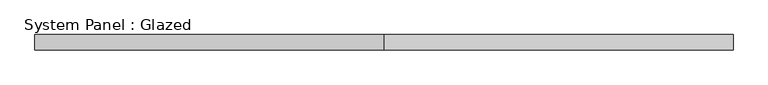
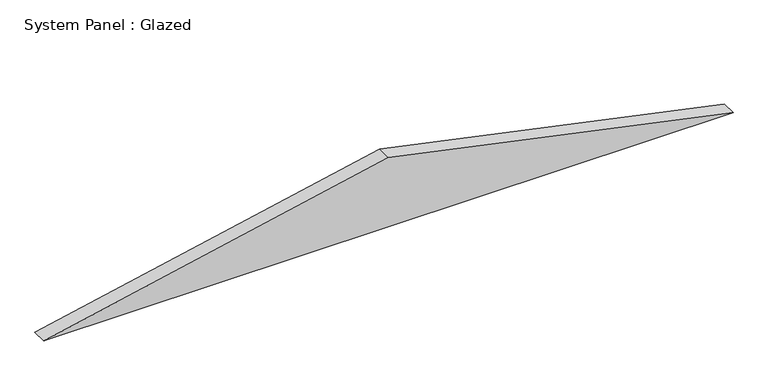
"""IFC4 building model written with IfcOpenShell, lengths in millimetres: plate geometry, System Panel : Glazed."""

from ifc_helpers import new_model, si_unit, frame, origin, place, context, project, spatial, polyline, outline, extrude, source, transform, mapped, element, save


def system_panel_glazed_117d8d09(model_context):
    return source(origin(), model_context, "Body", "SweptSolid", [
        extrude(outline(polyline([(0.0, -570.3698905), (0.0, 570.3698905), (121.2358628, 0.0), (0.0, -570.3698905)])), frame((0.0, 24.5, 0.0), z_axis=(0.0, 1.0, 0.0), x_axis=(0.0, 0.0, 1.0)), (0.0, 0.0, 1.0), 25.0),
    ])


if __name__ == "__main__":
    model = new_model("IFC4")
    model_context = context("Model", 3, world=origin())
    ifc_project = project(units=[si_unit("LENGTHUNIT", "METRE", prefix="MILLI")], contexts=[model_context])
    site = spatial("IfcSite", under=ifc_project)
    building = spatial("IfcBuilding", under=site)
    placement = place(None, origin())
    system_panel_glazed_shape = system_panel_glazed_117d8d09(model_context)
    element("IfcPlate", 1, ObjectType="System Panel : Glazed", at=placement, inside=building, context=model_context, shape_type="MappedRepresentation", body=[
        mapped(system_panel_glazed_shape, transform((0.0, 0.0, 0.0), x_axis=(1.0, 0.0, 0.0), y_axis=(0.0, 1.0, 0.0), z_axis=(0.0, 0.0, 1.0))),
    ])
    save(model, "model.ifc")
